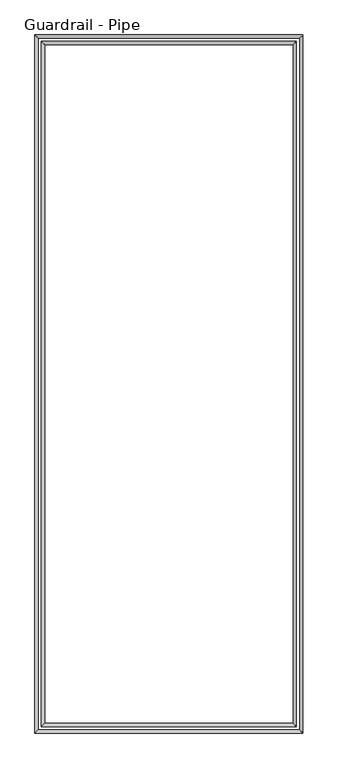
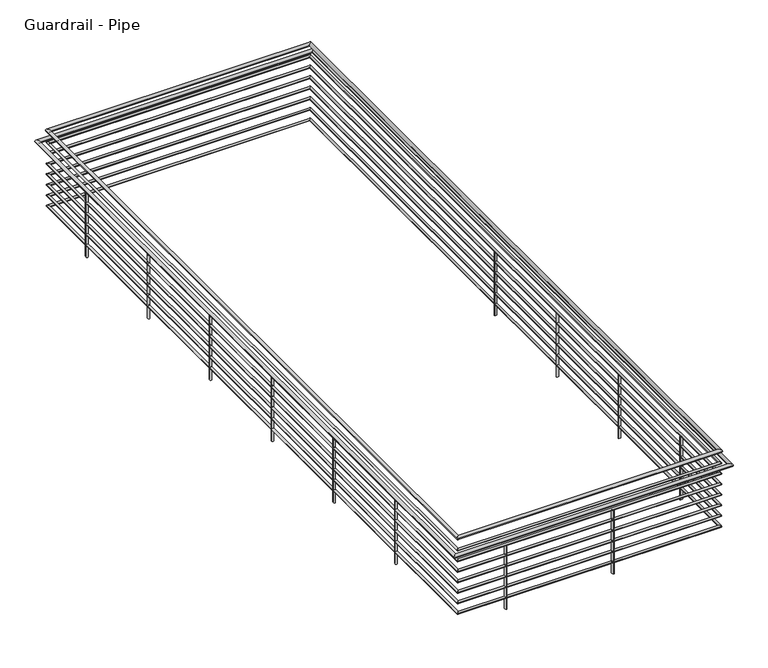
"""IFC4 building model written with IfcOpenShell, lengths in millimetres: railing geometry, Guardrail - Pipe."""

from ifc_helpers import new_model, si_unit, frame, origin, place, context, project, spatial, ellipse_curve, source, transform, mapped, element, save
from ifc_brep_helpers import plane_surface, cylinder_surface, advanced_brep


def guardrail_pipe_d067cc8d(model_context):
    return source(origin(), model_context, "Body", "AdvancedBrep", [
        advanced_brep(
        [(10994.5813551, 40890.75, 8362.95), (10956.4813551, 40928.85, 8362.95), (13977.3813552, 40928.85, 8362.95), (13939.2813552, 40890.75, 8362.95), (13977.3813552, 32813.55, 8362.95), (13939.2813552, 32851.65, 8362.95), (10956.4813551, 32813.55, 8362.95), (10994.5813551, 32851.65, 8362.95)],
        [
            (0, 1, ellipse_curve(frame((10975.5313551, 40909.8, 8362.95), z_axis=(0.7071067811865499, 0.7071067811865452, 0.0), x_axis=(-0.707106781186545, 0.70710678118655, 0.0)), 26.9407684, 19.05)),
            (1, 2),
            (2, 3, ellipse_curve(frame((13958.3313552, 40909.8, 8362.95), z_axis=(-0.7071067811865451, 0.7071067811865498, 0.0), x_axis=(-0.70710678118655, -0.707106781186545, 0.0)), 26.9407684, 19.05)),
            (3, 0),
            (1, 0, ellipse_curve(frame((10975.5313551, 40909.8, 8362.95), z_axis=(0.7071067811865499, 0.7071067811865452, 0.0), x_axis=(-0.707106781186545, 0.70710678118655, 0.0)), 26.9407684, 19.05)),
            (3, 2, ellipse_curve(frame((13958.3313552, 40909.8, 8362.95), z_axis=(-0.7071067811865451, 0.7071067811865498, 0.0), x_axis=(-0.70710678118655, -0.707106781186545, 0.0)), 26.9407684, 19.05)),
            (2, 4),
            (4, 5, ellipse_curve(frame((13958.3313552, 32832.6, 8362.95), z_axis=(0.7071067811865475, 0.7071067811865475, 0.0), x_axis=(-0.7071067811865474, 0.7071067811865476, 0.0)), 26.9407684, 19.05)),
            (5, 3),
            (5, 4, ellipse_curve(frame((13958.3313552, 32832.6, 8362.95), z_axis=(0.7071067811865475, 0.7071067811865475, 0.0), x_axis=(-0.7071067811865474, 0.7071067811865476, 0.0)), 26.9407684, 19.05)),
            (4, 6),
            (6, 7, ellipse_curve(frame((10975.5313551, 32832.6, 8362.95), z_axis=(0.7071067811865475, -0.7071067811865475, 0.0), x_axis=(0.7071067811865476, 0.7071067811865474, 0.0)), 26.9407684, 19.05)),
            (7, 5),
            (7, 6, ellipse_curve(frame((10975.5313551, 32832.6, 8362.95), z_axis=(0.7071067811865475, -0.7071067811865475, 0.0), x_axis=(0.7071067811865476, 0.7071067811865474, 0.0)), 26.9407684, 19.05)),
            (6, 1),
            (0, 7),
        ],
        [
            cylinder_surface(frame((10975.5313551, 40909.8, 8362.95), z_axis=(-1.0, 0.0, 0.0), x_axis=(0.0, -1.0, 0.0)), 19.05),
            cylinder_surface(frame((13958.3313552, 40909.8, 8362.95), z_axis=(0.0, 1.0, 0.0), x_axis=(-1.0, 0.0, 0.0)), 19.05),
            cylinder_surface(frame((13958.3313552, 32832.6, 8362.95), z_axis=(1.0, 0.0, 0.0), x_axis=(0.0, 1.0, 0.0)), 19.05),
            cylinder_surface(frame((10975.5313551, 32832.6, 8362.95), z_axis=(0.0, -1.0, 0.0), x_axis=(1.0, 0.0, 0.0)), 19.05),
        ],
        [
            (0, [[1, 2, 3, 4]]),
            (0, [[5, -4, 6, -2]]),
            (1, [[-3, 7, 8, 9]]),
            (1, [[-6, -9, 10, -7]]),
            (2, [[-8, 11, 12, 13]]),
            (2, [[-10, -13, 14, -11]]),
            (3, [[-12, 15, -1, 16]]),
            (3, [[-14, -16, -5, -15]]),
        ],
    ),
        advanced_brep(
        [(10988.2313551, 40897.1, 8216.9), (10962.8313551, 40922.5, 8216.9), (13971.0313552, 40922.5, 8216.9), (13945.6313552, 40897.1, 8216.9), (13971.0313552, 32819.9, 8216.9), (13945.6313552, 32845.3, 8216.9), (10962.8313551, 32819.9, 8216.9), (10988.2313551, 32845.3, 8216.9)],
        [
            (0, 1, ellipse_curve(frame((10975.5313551, 40909.8, 8216.9), z_axis=(0.7071067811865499, 0.7071067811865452, 0.0), x_axis=(-0.707106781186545, 0.70710678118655, 0.0)), 17.9605122, 12.7)),
            (1, 2),
            (2, 3, ellipse_curve(frame((13958.3313552, 40909.8, 8216.9), z_axis=(-0.7071067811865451, 0.7071067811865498, 0.0), x_axis=(-0.70710678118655, -0.707106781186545, 0.0)), 17.9605122, 12.7)),
            (3, 0),
            (1, 0, ellipse_curve(frame((10975.5313551, 40909.8, 8216.9), z_axis=(0.7071067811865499, 0.7071067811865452, 0.0), x_axis=(-0.707106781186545, 0.70710678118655, 0.0)), 17.9605122, 12.7)),
            (3, 2, ellipse_curve(frame((13958.3313552, 40909.8, 8216.9), z_axis=(-0.7071067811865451, 0.7071067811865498, 0.0), x_axis=(-0.70710678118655, -0.707106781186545, 0.0)), 17.9605122, 12.7)),
            (2, 4),
            (4, 5, ellipse_curve(frame((13958.3313552, 32832.6, 8216.9), z_axis=(0.7071067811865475, 0.7071067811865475, 0.0), x_axis=(-0.7071067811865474, 0.7071067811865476, 0.0)), 17.9605122, 12.7)),
            (5, 3),
            (5, 4, ellipse_curve(frame((13958.3313552, 32832.6, 8216.9), z_axis=(0.7071067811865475, 0.7071067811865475, 0.0), x_axis=(-0.7071067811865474, 0.7071067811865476, 0.0)), 17.9605122, 12.7)),
            (4, 6),
            (6, 7, ellipse_curve(frame((10975.5313551, 32832.6, 8216.9), z_axis=(0.7071067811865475, -0.7071067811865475, 0.0), x_axis=(0.7071067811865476, 0.7071067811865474, 0.0)), 17.9605122, 12.7)),
            (7, 5),
            (7, 6, ellipse_curve(frame((10975.5313551, 32832.6, 8216.9), z_axis=(0.7071067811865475, -0.7071067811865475, 0.0), x_axis=(0.7071067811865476, 0.7071067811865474, 0.0)), 17.9605122, 12.7)),
            (6, 1),
            (0, 7),
        ],
        [
            cylinder_surface(frame((10975.5313551, 40909.8, 8216.9), z_axis=(-1.0, 0.0, 0.0), x_axis=(0.0, -1.0, 0.0)), 12.7),
            cylinder_surface(frame((13958.3313552, 40909.8, 8216.9), z_axis=(0.0, 1.0, 0.0), x_axis=(-1.0, 0.0, 0.0)), 12.7),
            cylinder_surface(frame((13958.3313552, 32832.6, 8216.9), z_axis=(1.0, 0.0, 0.0), x_axis=(0.0, 1.0, 0.0)), 12.7),
            cylinder_surface(frame((10975.5313551, 32832.6, 8216.9), z_axis=(0.0, -1.0, 0.0), x_axis=(1.0, 0.0, 0.0)), 12.7),
        ],
        [
            (0, [[1, 2, 3, 4]]),
            (0, [[5, -4, 6, -2]]),
            (1, [[-3, 7, 8, 9]]),
            (1, [[-6, -9, 10, -7]]),
            (2, [[-8, 11, 12, 13]]),
            (2, [[-10, -13, 14, -11]]),
            (3, [[-12, 15, -1, 16]]),
            (3, [[-14, -16, -5, -15]]),
        ],
    ),
        advanced_brep(
        [(10918.3813551, 40966.95, 8210.55), (10880.2813551, 41005.05, 8210.55), (14053.5813552, 41005.05, 8210.55), (14015.4813552, 40966.95, 8210.55), (14053.5813552, 32737.35, 8210.55), (14015.4813552, 32775.45, 8210.55), (10880.2813551, 32737.35, 8210.55), (10918.3813551, 32775.45, 8210.55)],
        [
            (0, 1, ellipse_curve(frame((10899.3313551, 40986.0, 8210.55), z_axis=(0.7071067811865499, 0.7071067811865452, 0.0), x_axis=(-0.707106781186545, 0.70710678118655, 0.0)), 26.9407684, 19.05)),
            (1, 2),
            (2, 3, ellipse_curve(frame((14034.5313552, 40986.0, 8210.55), z_axis=(-0.7071067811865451, 0.7071067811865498, 0.0), x_axis=(-0.70710678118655, -0.707106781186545, 0.0)), 26.9407684, 19.05)),
            (3, 0),
            (1, 0, ellipse_curve(frame((10899.3313551, 40986.0, 8210.55), z_axis=(0.7071067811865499, 0.7071067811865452, 0.0), x_axis=(-0.707106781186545, 0.70710678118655, 0.0)), 26.9407684, 19.05)),
            (3, 2, ellipse_curve(frame((14034.5313552, 40986.0, 8210.55), z_axis=(-0.7071067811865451, 0.7071067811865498, 0.0), x_axis=(-0.70710678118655, -0.707106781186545, 0.0)), 26.9407684, 19.05)),
            (2, 4),
            (4, 5, ellipse_curve(frame((14034.5313552, 32756.4, 8210.55), z_axis=(0.7071067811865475, 0.7071067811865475, 0.0), x_axis=(-0.7071067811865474, 0.7071067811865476, 0.0)), 26.9407684, 19.05)),
            (5, 3),
            (5, 4, ellipse_curve(frame((14034.5313552, 32756.4, 8210.55), z_axis=(0.7071067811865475, 0.7071067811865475, 0.0), x_axis=(-0.7071067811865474, 0.7071067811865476, 0.0)), 26.9407684, 19.05)),
            (4, 6),
            (6, 7, ellipse_curve(frame((10899.3313551, 32756.4, 8210.55), z_axis=(0.7071067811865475, -0.7071067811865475, 0.0), x_axis=(0.7071067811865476, 0.7071067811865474, 0.0)), 26.9407684, 19.05)),
            (7, 5),
            (7, 6, ellipse_curve(frame((10899.3313551, 32756.4, 8210.55), z_axis=(0.7071067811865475, -0.7071067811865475, 0.0), x_axis=(0.7071067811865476, 0.7071067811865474, 0.0)), 26.9407684, 19.05)),
            (6, 1),
            (0, 7),
        ],
        [
            cylinder_surface(frame((10899.3313551, 40986.0, 8210.55), z_axis=(-1.0, 0.0, 0.0), x_axis=(0.0, -1.0, 0.0)), 19.05),
            cylinder_surface(frame((14034.5313552, 40986.0, 8210.55), z_axis=(0.0, 1.0, 0.0), x_axis=(-1.0, 0.0, 0.0)), 19.05),
            cylinder_surface(frame((14034.5313552, 32756.4, 8210.55), z_axis=(1.0, 0.0, 0.0), x_axis=(0.0, 1.0, 0.0)), 19.05),
            cylinder_surface(frame((10899.3313551, 32756.4, 8210.55), z_axis=(0.0, -1.0, 0.0), x_axis=(1.0, 0.0, 0.0)), 19.05),
        ],
        [
            (0, [[1, 2, 3, 4]]),
            (0, [[5, -4, 6, -2]]),
            (1, [[-3, 7, 8, 9]]),
            (1, [[-6, -9, 10, -7]]),
            (2, [[-8, 11, 12, 13]]),
            (2, [[-10, -13, 14, -11]]),
            (3, [[-12, 15, -1, 16]]),
            (3, [[-14, -16, -5, -15]]),
        ],
    ),
        advanced_brep(
        [(10988.2313551, 40897.1, 8089.9), (10962.8313551, 40922.5, 8089.9), (13971.0313552, 40922.5, 8089.9), (13945.6313552, 40897.1, 8089.9), (13971.0313552, 32819.9, 8089.9), (13945.6313552, 32845.3, 8089.9), (10962.8313551, 32819.9, 8089.9), (10988.2313551, 32845.3, 8089.9)],
        [
            (0, 1, ellipse_curve(frame((10975.5313551, 40909.8, 8089.9), z_axis=(0.7071067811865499, 0.7071067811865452, 0.0), x_axis=(-0.707106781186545, 0.70710678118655, 0.0)), 17.9605122, 12.7)),
            (1, 2),
            (2, 3, ellipse_curve(frame((13958.3313552, 40909.8, 8089.9), z_axis=(-0.7071067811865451, 0.7071067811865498, 0.0), x_axis=(-0.70710678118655, -0.707106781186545, 0.0)), 17.9605122, 12.7)),
            (3, 0),
            (1, 0, ellipse_curve(frame((10975.5313551, 40909.8, 8089.9), z_axis=(0.7071067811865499, 0.7071067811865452, 0.0), x_axis=(-0.707106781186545, 0.70710678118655, 0.0)), 17.9605122, 12.7)),
            (3, 2, ellipse_curve(frame((13958.3313552, 40909.8, 8089.9), z_axis=(-0.7071067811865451, 0.7071067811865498, 0.0), x_axis=(-0.70710678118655, -0.707106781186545, 0.0)), 17.9605122, 12.7)),
            (2, 4),
            (4, 5, ellipse_curve(frame((13958.3313552, 32832.6, 8089.9), z_axis=(0.7071067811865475, 0.7071067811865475, 0.0), x_axis=(-0.7071067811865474, 0.7071067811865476, 0.0)), 17.9605122, 12.7)),
            (5, 3),
            (5, 4, ellipse_curve(frame((13958.3313552, 32832.6, 8089.9), z_axis=(0.7071067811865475, 0.7071067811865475, 0.0), x_axis=(-0.7071067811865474, 0.7071067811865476, 0.0)), 17.9605122, 12.7)),
            (4, 6),
            (6, 7, ellipse_curve(frame((10975.5313551, 32832.6, 8089.9), z_axis=(0.7071067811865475, -0.7071067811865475, 0.0), x_axis=(0.7071067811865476, 0.7071067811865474, 0.0)), 17.9605122, 12.7)),
            (7, 5),
            (7, 6, ellipse_curve(frame((10975.5313551, 32832.6, 8089.9), z_axis=(0.7071067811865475, -0.7071067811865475, 0.0), x_axis=(0.7071067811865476, 0.7071067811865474, 0.0)), 17.9605122, 12.7)),
            (6, 1),
            (0, 7),
        ],
        [
            cylinder_surface(frame((10975.5313551, 40909.8, 8089.9), z_axis=(-1.0, 0.0, 0.0), x_axis=(0.0, -1.0, 0.0)), 12.7),
            cylinder_surface(frame((13958.3313552, 40909.8, 8089.9), z_axis=(0.0, 1.0, 0.0), x_axis=(-1.0, 0.0, 0.0)), 12.7),
            cylinder_surface(frame((13958.3313552, 32832.6, 8089.9), z_axis=(1.0, 0.0, 0.0), x_axis=(0.0, 1.0, 0.0)), 12.7),
            cylinder_surface(frame((10975.5313551, 32832.6, 8089.9), z_axis=(0.0, -1.0, 0.0), x_axis=(1.0, 0.0, 0.0)), 12.7),
        ],
        [
            (0, [[1, 2, 3, 4]]),
            (0, [[5, -4, 6, -2]]),
            (1, [[-3, 7, 8, 9]]),
            (1, [[-6, -9, 10, -7]]),
            (2, [[-8, 11, 12, 13]]),
            (2, [[-10, -13, 14, -11]]),
            (3, [[-12, 15, -1, 16]]),
            (3, [[-14, -16, -5, -15]]),
        ],
    ),
        advanced_brep(
        [(10988.2313551, 40897.1, 7962.9), (10962.8313551, 40922.5, 7962.9), (13971.0313552, 40922.5, 7962.9), (13945.6313552, 40897.1, 7962.9), (13971.0313552, 32819.9, 7962.9), (13945.6313552, 32845.3, 7962.9), (10962.8313551, 32819.9, 7962.9), (10988.2313551, 32845.3, 7962.9)],
        [
            (0, 1, ellipse_curve(frame((10975.5313551, 40909.8, 7962.9), z_axis=(0.7071067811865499, 0.7071067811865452, 0.0), x_axis=(-0.707106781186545, 0.70710678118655, 0.0)), 17.9605122, 12.7)),
            (1, 2),
            (2, 3, ellipse_curve(frame((13958.3313552, 40909.8, 7962.9), z_axis=(-0.7071067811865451, 0.7071067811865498, 0.0), x_axis=(-0.70710678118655, -0.707106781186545, 0.0)), 17.9605122, 12.7)),
            (3, 0),
            (1, 0, ellipse_curve(frame((10975.5313551, 40909.8, 7962.9), z_axis=(0.7071067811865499, 0.7071067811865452, 0.0), x_axis=(-0.707106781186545, 0.70710678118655, 0.0)), 17.9605122, 12.7)),
            (3, 2, ellipse_curve(frame((13958.3313552, 40909.8, 7962.9), z_axis=(-0.7071067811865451, 0.7071067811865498, 0.0), x_axis=(-0.70710678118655, -0.707106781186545, 0.0)), 17.9605122, 12.7)),
            (2, 4),
            (4, 5, ellipse_curve(frame((13958.3313552, 32832.6, 7962.9), z_axis=(0.7071067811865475, 0.7071067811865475, 0.0), x_axis=(-0.7071067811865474, 0.7071067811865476, 0.0)), 17.9605122, 12.7)),
            (5, 3),
            (5, 4, ellipse_curve(frame((13958.3313552, 32832.6, 7962.9), z_axis=(0.7071067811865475, 0.7071067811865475, 0.0), x_axis=(-0.7071067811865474, 0.7071067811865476, 0.0)), 17.9605122, 12.7)),
            (4, 6),
            (6, 7, ellipse_curve(frame((10975.5313551, 32832.6, 7962.9), z_axis=(0.7071067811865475, -0.7071067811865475, 0.0), x_axis=(0.7071067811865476, 0.7071067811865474, 0.0)), 17.9605122, 12.7)),
            (7, 5),
            (7, 6, ellipse_curve(frame((10975.5313551, 32832.6, 7962.9), z_axis=(0.7071067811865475, -0.7071067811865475, 0.0), x_axis=(0.7071067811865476, 0.7071067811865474, 0.0)), 17.9605122, 12.7)),
            (6, 1),
            (0, 7),
        ],
        [
            cylinder_surface(frame((10975.5313551, 40909.8, 7962.9), z_axis=(-1.0, 0.0, 0.0), x_axis=(0.0, -1.0, 0.0)), 12.7),
            cylinder_surface(frame((13958.3313552, 40909.8, 7962.9), z_axis=(0.0, 1.0, 0.0), x_axis=(-1.0, 0.0, 0.0)), 12.7),
            cylinder_surface(frame((13958.3313552, 32832.6, 7962.9), z_axis=(1.0, 0.0, 0.0), x_axis=(0.0, 1.0, 0.0)), 12.7),
            cylinder_surface(frame((10975.5313551, 32832.6, 7962.9), z_axis=(0.0, -1.0, 0.0), x_axis=(1.0, 0.0, 0.0)), 12.7),
        ],
        [
            (0, [[1, 2, 3, 4]]),
            (0, [[5, -4, 6, -2]]),
            (1, [[-3, 7, 8, 9]]),
            (1, [[-6, -9, 10, -7]]),
            (2, [[-8, 11, 12, 13]]),
            (2, [[-10, -13, 14, -11]]),
            (3, [[-12, 15, -1, 16]]),
            (3, [[-14, -16, -5, -15]]),
        ],
    ),
        advanced_brep(
        [(10988.2313551, 40897.1, 7835.9), (10962.8313551, 40922.5, 7835.9), (13971.0313552, 40922.5, 7835.9), (13945.6313552, 40897.1, 7835.9), (13971.0313552, 32819.9, 7835.9), (13945.6313552, 32845.3, 7835.9), (10962.8313551, 32819.9, 7835.9), (10988.2313551, 32845.3, 7835.9)],
        [
            (0, 1, ellipse_curve(frame((10975.5313551, 40909.8, 7835.9), z_axis=(0.7071067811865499, 0.7071067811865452, 0.0), x_axis=(-0.707106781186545, 0.70710678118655, 0.0)), 17.9605122, 12.7)),
            (1, 2),
            (2, 3, ellipse_curve(frame((13958.3313552, 40909.8, 7835.9), z_axis=(-0.7071067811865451, 0.7071067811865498, 0.0), x_axis=(-0.70710678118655, -0.707106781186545, 0.0)), 17.9605122, 12.7)),
            (3, 0),
            (1, 0, ellipse_curve(frame((10975.5313551, 40909.8, 7835.9), z_axis=(0.7071067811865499, 0.7071067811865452, 0.0), x_axis=(-0.707106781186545, 0.70710678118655, 0.0)), 17.9605122, 12.7)),
            (3, 2, ellipse_curve(frame((13958.3313552, 40909.8, 7835.9), z_axis=(-0.7071067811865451, 0.7071067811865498, 0.0), x_axis=(-0.70710678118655, -0.707106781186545, 0.0)), 17.9605122, 12.7)),
            (2, 4),
            (4, 5, ellipse_curve(frame((13958.3313552, 32832.6, 7835.9), z_axis=(0.7071067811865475, 0.7071067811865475, 0.0), x_axis=(-0.7071067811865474, 0.7071067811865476, 0.0)), 17.9605122, 12.7)),
            (5, 3),
            (5, 4, ellipse_curve(frame((13958.3313552, 32832.6, 7835.9), z_axis=(0.7071067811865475, 0.7071067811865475, 0.0), x_axis=(-0.7071067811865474, 0.7071067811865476, 0.0)), 17.9605122, 12.7)),
            (4, 6),
            (6, 7, ellipse_curve(frame((10975.5313551, 32832.6, 7835.9), z_axis=(0.7071067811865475, -0.7071067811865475, 0.0), x_axis=(0.7071067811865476, 0.7071067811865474, 0.0)), 17.9605122, 12.7)),
            (7, 5),
            (7, 6, ellipse_curve(frame((10975.5313551, 32832.6, 7835.9), z_axis=(0.7071067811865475, -0.7071067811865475, 0.0), x_axis=(0.7071067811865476, 0.7071067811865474, 0.0)), 17.9605122, 12.7)),
            (6, 1),
            (0, 7),
        ],
        [
            cylinder_surface(frame((10975.5313551, 40909.8, 7835.9), z_axis=(-1.0, 0.0, 0.0), x_axis=(0.0, -1.0, 0.0)), 12.7),
            cylinder_surface(frame((13958.3313552, 40909.8, 7835.9), z_axis=(0.0, 1.0, 0.0), x_axis=(-1.0, 0.0, 0.0)), 12.7),
            cylinder_surface(frame((13958.3313552, 32832.6, 7835.9), z_axis=(1.0, 0.0, 0.0), x_axis=(0.0, 1.0, 0.0)), 12.7),
            cylinder_surface(frame((10975.5313551, 32832.6, 7835.9), z_axis=(0.0, -1.0, 0.0), x_axis=(1.0, 0.0, 0.0)), 12.7),
        ],
        [
            (0, [[1, 2, 3, 4]]),
            (0, [[5, -4, 6, -2]]),
            (1, [[-3, 7, 8, 9]]),
            (1, [[-6, -9, 10, -7]]),
            (2, [[-8, 11, 12, 13]]),
            (2, [[-10, -13, 14, -11]]),
            (3, [[-12, 15, -1, 16]]),
            (3, [[-14, -16, -5, -15]]),
        ],
    ),
        advanced_brep(
        [(10988.2313551, 40897.1, 7708.9), (10962.8313551, 40922.5, 7708.9), (13971.0313552, 40922.5, 7708.9), (13945.6313552, 40897.1, 7708.9), (13971.0313552, 32819.9, 7708.9), (13945.6313552, 32845.3, 7708.9), (10962.8313551, 32819.9, 7708.9), (10988.2313551, 32845.3, 7708.9)],
        [
            (0, 1, ellipse_curve(frame((10975.5313551, 40909.8, 7708.9), z_axis=(0.7071067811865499, 0.7071067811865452, 0.0), x_axis=(-0.707106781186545, 0.70710678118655, 0.0)), 17.9605122, 12.7)),
            (1, 2),
            (2, 3, ellipse_curve(frame((13958.3313552, 40909.8, 7708.9), z_axis=(-0.7071067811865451, 0.7071067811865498, 0.0), x_axis=(-0.70710678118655, -0.707106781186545, 0.0)), 17.9605122, 12.7)),
            (3, 0),
            (1, 0, ellipse_curve(frame((10975.5313551, 40909.8, 7708.9), z_axis=(0.7071067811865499, 0.7071067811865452, 0.0), x_axis=(-0.707106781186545, 0.70710678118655, 0.0)), 17.9605122, 12.7)),
            (3, 2, ellipse_curve(frame((13958.3313552, 40909.8, 7708.9), z_axis=(-0.7071067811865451, 0.7071067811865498, 0.0), x_axis=(-0.70710678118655, -0.707106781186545, 0.0)), 17.9605122, 12.7)),
            (2, 4),
            (4, 5, ellipse_curve(frame((13958.3313552, 32832.6, 7708.9), z_axis=(0.7071067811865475, 0.7071067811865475, 0.0), x_axis=(-0.7071067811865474, 0.7071067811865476, 0.0)), 17.9605122, 12.7)),
            (5, 3),
            (5, 4, ellipse_curve(frame((13958.3313552, 32832.6, 7708.9), z_axis=(0.7071067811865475, 0.7071067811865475, 0.0), x_axis=(-0.7071067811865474, 0.7071067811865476, 0.0)), 17.9605122, 12.7)),
            (4, 6),
            (6, 7, ellipse_curve(frame((10975.5313551, 32832.6, 7708.9), z_axis=(0.7071067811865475, -0.7071067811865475, 0.0), x_axis=(0.7071067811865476, 0.7071067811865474, 0.0)), 17.9605122, 12.7)),
            (7, 5),
            (7, 6, ellipse_curve(frame((10975.5313551, 32832.6, 7708.9), z_axis=(0.7071067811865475, -0.7071067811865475, 0.0), x_axis=(0.7071067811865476, 0.7071067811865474, 0.0)), 17.9605122, 12.7)),
            (6, 1),
            (0, 7),
        ],
        [
            cylinder_surface(frame((10975.5313551, 40909.8, 7708.9), z_axis=(-1.0, 0.0, 0.0), x_axis=(0.0, -1.0, 0.0)), 12.7),
            cylinder_surface(frame((13958.3313552, 40909.8, 7708.9), z_axis=(0.0, 1.0, 0.0), x_axis=(-1.0, 0.0, 0.0)), 12.7),
            cylinder_surface(frame((13958.3313552, 32832.6, 7708.9), z_axis=(1.0, 0.0, 0.0), x_axis=(0.0, 1.0, 0.0)), 12.7),
            cylinder_surface(frame((10975.5313551, 32832.6, 7708.9), z_axis=(0.0, -1.0, 0.0), x_axis=(1.0, 0.0, 0.0)), 12.7),
        ],
        [
            (0, [[1, 2, 3, 4]]),
            (0, [[5, -4, 6, -2]]),
            (1, [[-3, 7, 8, 9]]),
            (1, [[-6, -9, 10, -7]]),
            (2, [[-8, 11, 12, 13]]),
            (2, [[-10, -13, 14, -11]]),
            (3, [[-12, 15, -1, 16]]),
            (3, [[-14, -16, -5, -15]]),
        ],
    ),
        advanced_brep(
        [(10988.2313551, 40897.1, 7581.9), (10962.8313551, 40922.5, 7581.9), (13971.0313552, 40922.5, 7581.9), (13945.6313552, 40897.1, 7581.9), (13971.0313552, 32819.9, 7581.9), (13945.6313552, 32845.3, 7581.9), (10962.8313551, 32819.9, 7581.9), (10988.2313551, 32845.3, 7581.9)],
        [
            (0, 1, ellipse_curve(frame((10975.5313551, 40909.8, 7581.9), z_axis=(0.7071067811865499, 0.7071067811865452, 0.0), x_axis=(-0.707106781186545, 0.70710678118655, 0.0)), 17.9605122, 12.7)),
            (1, 2),
            (2, 3, ellipse_curve(frame((13958.3313552, 40909.8, 7581.9), z_axis=(-0.7071067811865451, 0.7071067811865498, 0.0), x_axis=(-0.70710678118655, -0.707106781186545, 0.0)), 17.9605122, 12.7)),
            (3, 0),
            (1, 0, ellipse_curve(frame((10975.5313551, 40909.8, 7581.9), z_axis=(0.7071067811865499, 0.7071067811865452, 0.0), x_axis=(-0.707106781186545, 0.70710678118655, 0.0)), 17.9605122, 12.7)),
            (3, 2, ellipse_curve(frame((13958.3313552, 40909.8, 7581.9), z_axis=(-0.7071067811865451, 0.7071067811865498, 0.0), x_axis=(-0.70710678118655, -0.707106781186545, 0.0)), 17.9605122, 12.7)),
            (2, 4),
            (4, 5, ellipse_curve(frame((13958.3313552, 32832.6, 7581.9), z_axis=(0.7071067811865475, 0.7071067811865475, 0.0), x_axis=(-0.7071067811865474, 0.7071067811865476, 0.0)), 17.9605122, 12.7)),
            (5, 3),
            (5, 4, ellipse_curve(frame((13958.3313552, 32832.6, 7581.9), z_axis=(0.7071067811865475, 0.7071067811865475, 0.0), x_axis=(-0.7071067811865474, 0.7071067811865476, 0.0)), 17.9605122, 12.7)),
            (4, 6),
            (6, 7, ellipse_curve(frame((10975.5313551, 32832.6, 7581.9), z_axis=(0.7071067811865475, -0.7071067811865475, 0.0), x_axis=(0.7071067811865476, 0.7071067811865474, 0.0)), 17.9605122, 12.7)),
            (7, 5),
            (7, 6, ellipse_curve(frame((10975.5313551, 32832.6, 7581.9), z_axis=(0.7071067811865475, -0.7071067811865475, 0.0), x_axis=(0.7071067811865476, 0.7071067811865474, 0.0)), 17.9605122, 12.7)),
            (6, 1),
            (0, 7),
        ],
        [
            cylinder_surface(frame((10975.5313551, 40909.8, 7581.9), z_axis=(-1.0, 0.0, 0.0), x_axis=(0.0, -1.0, 0.0)), 12.7),
            cylinder_surface(frame((13958.3313552, 40909.8, 7581.9), z_axis=(0.0, 1.0, 0.0), x_axis=(-1.0, 0.0, 0.0)), 12.7),
            cylinder_surface(frame((13958.3313552, 32832.6, 7581.9), z_axis=(1.0, 0.0, 0.0), x_axis=(0.0, 1.0, 0.0)), 12.7),
            cylinder_surface(frame((10975.5313551, 32832.6, 7581.9), z_axis=(0.0, -1.0, 0.0), x_axis=(1.0, 0.0, 0.0)), 12.7),
        ],
        [
            (0, [[1, 2, 3, 4]]),
            (0, [[5, -4, 6, -2]]),
            (1, [[-3, 7, 8, 9]]),
            (1, [[-6, -9, 10, -7]]),
            (2, [[-8, 11, 12, 13]]),
            (2, [[-10, -13, 14, -11]]),
            (3, [[-12, 15, -1, 16]]),
            (3, [[-14, -16, -5, -15]]),
        ],
    ),
        advanced_brep(
        [(10988.2313551, 40897.1, 7454.9), (10962.8313551, 40922.5, 7454.9), (13971.0313552, 40922.5, 7454.9), (13945.6313552, 40897.1, 7454.9), (13971.0313552, 32819.9, 7454.9), (13945.6313552, 32845.3, 7454.9), (10962.8313551, 32819.9, 7454.9), (10988.2313551, 32845.3, 7454.9)],
        [
            (0, 1, ellipse_curve(frame((10975.5313551, 40909.8, 7454.9), z_axis=(0.7071067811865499, 0.7071067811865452, 0.0), x_axis=(-0.707106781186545, 0.70710678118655, 0.0)), 17.9605122, 12.7)),
            (1, 2),
            (2, 3, ellipse_curve(frame((13958.3313552, 40909.8, 7454.9), z_axis=(-0.7071067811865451, 0.7071067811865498, 0.0), x_axis=(-0.70710678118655, -0.707106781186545, 0.0)), 17.9605122, 12.7)),
            (3, 0),
            (1, 0, ellipse_curve(frame((10975.5313551, 40909.8, 7454.9), z_axis=(0.7071067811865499, 0.7071067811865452, 0.0), x_axis=(-0.707106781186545, 0.70710678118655, 0.0)), 17.9605122, 12.7)),
            (3, 2, ellipse_curve(frame((13958.3313552, 40909.8, 7454.9), z_axis=(-0.7071067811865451, 0.7071067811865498, 0.0), x_axis=(-0.70710678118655, -0.707106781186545, 0.0)), 17.9605122, 12.7)),
            (2, 4),
            (4, 5, ellipse_curve(frame((13958.3313552, 32832.6, 7454.9), z_axis=(0.7071067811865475, 0.7071067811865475, 0.0), x_axis=(-0.7071067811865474, 0.7071067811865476, 0.0)), 17.9605122, 12.7)),
            (5, 3),
            (5, 4, ellipse_curve(frame((13958.3313552, 32832.6, 7454.9), z_axis=(0.7071067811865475, 0.7071067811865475, 0.0), x_axis=(-0.7071067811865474, 0.7071067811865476, 0.0)), 17.9605122, 12.7)),
            (4, 6),
            (6, 7, ellipse_curve(frame((10975.5313551, 32832.6, 7454.9), z_axis=(0.7071067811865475, -0.7071067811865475, 0.0), x_axis=(0.7071067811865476, 0.7071067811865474, 0.0)), 17.9605122, 12.7)),
            (7, 5),
            (7, 6, ellipse_curve(frame((10975.5313551, 32832.6, 7454.9), z_axis=(0.7071067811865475, -0.7071067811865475, 0.0), x_axis=(0.7071067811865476, 0.7071067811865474, 0.0)), 17.9605122, 12.7)),
            (6, 1),
            (0, 7),
        ],
        [
            cylinder_surface(frame((10975.5313551, 40909.8, 7454.9), z_axis=(-1.0, 0.0, 0.0), x_axis=(0.0, -1.0, 0.0)), 12.7),
            cylinder_surface(frame((13958.3313552, 40909.8, 7454.9), z_axis=(0.0, 1.0, 0.0), x_axis=(-1.0, 0.0, 0.0)), 12.7),
            cylinder_surface(frame((13958.3313552, 32832.6, 7454.9), z_axis=(1.0, 0.0, 0.0), x_axis=(0.0, 1.0, 0.0)), 12.7),
            cylinder_surface(frame((10975.5313551, 32832.6, 7454.9), z_axis=(0.0, -1.0, 0.0), x_axis=(1.0, 0.0, 0.0)), 12.7),
        ],
        [
            (0, [[1, 2, 3, 4]]),
            (0, [[5, -4, 6, -2]]),
            (1, [[-3, 7, 8, 9]]),
            (1, [[-6, -9, 10, -7]]),
            (2, [[-8, 11, 12, 13]]),
            (2, [[-10, -13, 14, -11]]),
            (3, [[-12, 15, -1, 16]]),
            (3, [[-14, -16, -5, -15]]),
        ],
    ),
        advanced_brep(
        [(10988.2313551, 40147.8, 8077.2), (10988.2313551, 40147.8, 7315.2), (10962.8313551, 40147.8, 7315.2), (10962.8313551, 40147.8, 8077.2)],
        [
            (0, 1),
            (1, 2, ellipse_curve(frame((10975.5313551, 40147.8, 7315.2), z_axis=(0.0, -0.536857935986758, 0.8436726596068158), x_axis=(0.0, 0.8436726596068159, 0.536857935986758)), 15.0532317, 12.7)),
            (2, 3),
            (3, 0, ellipse_curve(frame((10975.5313551, 40147.8, 8077.2), z_axis=(0.0, 0.5368579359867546, -0.8436726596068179), x_axis=(0.0, 0.843672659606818, 0.5368579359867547)), 15.0532317, 12.7)),
            (0, 3, ellipse_curve(frame((10975.5313551, 40147.8, 8077.2), z_axis=(0.0, 0.5368579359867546, -0.8436726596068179), x_axis=(0.0, 0.843672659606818, 0.5368579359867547)), 15.0532317, 12.7)),
            (2, 1, ellipse_curve(frame((10975.5313551, 40147.8, 7315.2), z_axis=(0.0, -0.536857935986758, 0.8436726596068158), x_axis=(0.0, 0.8436726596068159, 0.536857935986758)), 15.0532317, 12.7)),
        ],
        [
            cylinder_surface(frame((10975.5313551, 40147.8, 7086.6), z_axis=(0.0, 0.0, 1.0), x_axis=(-1.0, 0.0, 0.0)), 12.7),
            plane_surface(frame((10950.1313551, 40173.2, 8093.3628938), z_axis=(0.0, -0.5368579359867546, 0.8436726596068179), x_axis=(1.0, 0.0, 0.0))),
            plane_surface(frame((10950.1313551, 40122.4, 7299.0371062), z_axis=(0.0, 0.536857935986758, -0.8436726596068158), x_axis=(1.0, 0.0, 0.0))),
        ],
        [
            (0, [[1, 2, 3, 4]]),
            (0, [[-1, 5, -3, 6]]),
            (1, [[-4, -5]]),
            (2, [[-2, -6]]),
        ],
    ),
        advanced_brep(
        [(10988.2313551, 38928.6, 8077.2), (10988.2313551, 38928.6, 7315.2), (10962.8313551, 38928.6, 7315.2), (10962.8313551, 38928.6, 8077.2)],
        [
            (0, 1),
            (1, 2, ellipse_curve(frame((10975.5313551, 38928.6, 7315.2), z_axis=(0.0, -0.536857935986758, 0.8436726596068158), x_axis=(0.0, 0.8436726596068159, 0.536857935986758)), 15.0532317, 12.7)),
            (2, 3),
            (3, 0, ellipse_curve(frame((10975.5313551, 38928.6, 8077.2), z_axis=(0.0, 0.5368579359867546, -0.8436726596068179), x_axis=(0.0, 0.843672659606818, 0.5368579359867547)), 15.0532317, 12.7)),
            (0, 3, ellipse_curve(frame((10975.5313551, 38928.6, 8077.2), z_axis=(0.0, 0.5368579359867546, -0.8436726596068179), x_axis=(0.0, 0.843672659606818, 0.5368579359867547)), 15.0532317, 12.7)),
            (2, 1, ellipse_curve(frame((10975.5313551, 38928.6, 7315.2), z_axis=(0.0, -0.536857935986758, 0.8436726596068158), x_axis=(0.0, 0.8436726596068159, 0.536857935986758)), 15.0532317, 12.7)),
        ],
        [
            cylinder_surface(frame((10975.5313551, 38928.6, 7086.6), z_axis=(0.0, 0.0, 1.0), x_axis=(-1.0, 0.0, 0.0)), 12.7),
            plane_surface(frame((10950.1313551, 38954.0, 8093.3628938), z_axis=(0.0, -0.5368579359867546, 0.8436726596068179), x_axis=(1.0, 0.0, 0.0))),
            plane_surface(frame((10950.1313551, 38903.2, 7299.0371062), z_axis=(0.0, 0.536857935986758, -0.8436726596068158), x_axis=(1.0, 0.0, 0.0))),
        ],
        [
            (0, [[1, 2, 3, 4]]),
            (0, [[-1, 5, -3, 6]]),
            (1, [[-4, -5]]),
            (2, [[-2, -6]]),
        ],
    ),
        advanced_brep(
        [(10988.2313551, 37709.4, 8077.2), (10988.2313551, 37709.4, 7315.2), (10962.8313551, 37709.4, 7315.2), (10962.8313551, 37709.4, 8077.2)],
        [
            (0, 1),
            (1, 2, ellipse_curve(frame((10975.5313551, 37709.4, 7315.2), z_axis=(0.0, -0.536857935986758, 0.8436726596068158), x_axis=(0.0, 0.8436726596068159, 0.536857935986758)), 15.0532317, 12.7)),
            (2, 3),
            (3, 0, ellipse_curve(frame((10975.5313551, 37709.4, 8077.2), z_axis=(0.0, 0.5368579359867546, -0.8436726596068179), x_axis=(0.0, 0.843672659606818, 0.5368579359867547)), 15.0532317, 12.7)),
            (0, 3, ellipse_curve(frame((10975.5313551, 37709.4, 8077.2), z_axis=(0.0, 0.5368579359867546, -0.8436726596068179), x_axis=(0.0, 0.843672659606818, 0.5368579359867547)), 15.0532317, 12.7)),
            (2, 1, ellipse_curve(frame((10975.5313551, 37709.4, 7315.2), z_axis=(0.0, -0.536857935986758, 0.8436726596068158), x_axis=(0.0, 0.8436726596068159, 0.536857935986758)), 15.0532317, 12.7)),
        ],
        [
            cylinder_surface(frame((10975.5313551, 37709.4, 7086.6), z_axis=(0.0, 0.0, 1.0), x_axis=(-1.0, 0.0, 0.0)), 12.7),
            plane_surface(frame((10950.1313551, 37734.8, 8093.3628938), z_axis=(0.0, -0.5368579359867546, 0.8436726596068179), x_axis=(1.0, 0.0, 0.0))),
            plane_surface(frame((10950.1313551, 37684.0, 7299.0371062), z_axis=(0.0, 0.536857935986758, -0.8436726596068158), x_axis=(1.0, 0.0, 0.0))),
        ],
        [
            (0, [[1, 2, 3, 4]]),
            (0, [[-1, 5, -3, 6]]),
            (1, [[-4, -5]]),
            (2, [[-2, -6]]),
        ],
    ),
        advanced_brep(
        [(10988.2313551, 36490.2, 8077.2), (10988.2313551, 36490.2, 7315.2), (10962.8313551, 36490.2, 7315.2), (10962.8313551, 36490.2, 8077.2)],
        [
            (0, 1),
            (1, 2, ellipse_curve(frame((10975.5313551, 36490.2, 7315.2), z_axis=(0.0, -0.536857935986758, 0.8436726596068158), x_axis=(0.0, 0.8436726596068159, 0.536857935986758)), 15.0532317, 12.7)),
            (2, 3),
            (3, 0, ellipse_curve(frame((10975.5313551, 36490.2, 8077.2), z_axis=(0.0, 0.5368579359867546, -0.8436726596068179), x_axis=(0.0, 0.843672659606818, 0.5368579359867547)), 15.0532317, 12.7)),
            (0, 3, ellipse_curve(frame((10975.5313551, 36490.2, 8077.2), z_axis=(0.0, 0.5368579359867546, -0.8436726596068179), x_axis=(0.0, 0.843672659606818, 0.5368579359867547)), 15.0532317, 12.7)),
            (2, 1, ellipse_curve(frame((10975.5313551, 36490.2, 7315.2), z_axis=(0.0, -0.536857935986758, 0.8436726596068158), x_axis=(0.0, 0.8436726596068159, 0.536857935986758)), 15.0532317, 12.7)),
        ],
        [
            cylinder_surface(frame((10975.5313551, 36490.2, 7086.6), z_axis=(0.0, 0.0, 1.0), x_axis=(-1.0, 0.0, 0.0)), 12.7),
            plane_surface(frame((10950.1313551, 36515.6, 8093.3628938), z_axis=(0.0, -0.5368579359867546, 0.8436726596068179), x_axis=(1.0, 0.0, 0.0))),
            plane_surface(frame((10950.1313551, 36464.8, 7299.0371062), z_axis=(0.0, 0.536857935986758, -0.8436726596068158), x_axis=(1.0, 0.0, 0.0))),
        ],
        [
            (0, [[1, 2, 3, 4]]),
            (0, [[-1, 5, -3, 6]]),
            (1, [[-4, -5]]),
            (2, [[-2, -6]]),
        ],
    ),
        advanced_brep(
        [(10988.2313551, 35271.0, 8077.2), (10988.2313551, 35271.0, 7315.2), (10962.8313551, 35271.0, 7315.2), (10962.8313551, 35271.0, 8077.2)],
        [
            (0, 1),
            (1, 2, ellipse_curve(frame((10975.5313551, 35271.0, 7315.2), z_axis=(0.0, -0.536857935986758, 0.8436726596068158), x_axis=(0.0, 0.8436726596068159, 0.536857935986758)), 15.0532317, 12.7)),
            (2, 3),
            (3, 0, ellipse_curve(frame((10975.5313551, 35271.0, 8077.2), z_axis=(0.0, 0.5368579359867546, -0.8436726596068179), x_axis=(0.0, 0.843672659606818, 0.5368579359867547)), 15.0532317, 12.7)),
            (0, 3, ellipse_curve(frame((10975.5313551, 35271.0, 8077.2), z_axis=(0.0, 0.5368579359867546, -0.8436726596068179), x_axis=(0.0, 0.843672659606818, 0.5368579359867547)), 15.0532317, 12.7)),
            (2, 1, ellipse_curve(frame((10975.5313551, 35271.0, 7315.2), z_axis=(0.0, -0.536857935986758, 0.8436726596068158), x_axis=(0.0, 0.8436726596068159, 0.536857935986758)), 15.0532317, 12.7)),
        ],
        [
            cylinder_surface(frame((10975.5313551, 35271.0, 7086.6), z_axis=(0.0, 0.0, 1.0), x_axis=(-1.0, 0.0, 0.0)), 12.7),
            plane_surface(frame((10950.1313551, 35296.4, 8093.3628938), z_axis=(0.0, -0.5368579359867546, 0.8436726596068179), x_axis=(1.0, 0.0, 0.0))),
            plane_surface(frame((10950.1313551, 35245.6, 7299.0371062), z_axis=(0.0, 0.536857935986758, -0.8436726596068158), x_axis=(1.0, 0.0, 0.0))),
        ],
        [
            (0, [[1, 2, 3, 4]]),
            (0, [[-1, 5, -3, 6]]),
            (1, [[-4, -5]]),
            (2, [[-2, -6]]),
        ],
    ),
        advanced_brep(
        [(10988.2313551, 34051.8, 8077.2), (10988.2313551, 34051.8, 7315.2), (10962.8313551, 34051.8, 7315.2), (10962.8313551, 34051.8, 8077.2)],
        [
            (0, 1),
            (1, 2, ellipse_curve(frame((10975.5313551, 34051.8, 7315.2), z_axis=(0.0, -0.536857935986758, 0.8436726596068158), x_axis=(0.0, 0.8436726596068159, 0.536857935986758)), 15.0532317, 12.7)),
            (2, 3),
            (3, 0, ellipse_curve(frame((10975.5313551, 34051.8, 8077.2), z_axis=(0.0, 0.5368579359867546, -0.8436726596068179), x_axis=(0.0, 0.843672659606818, 0.5368579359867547)), 15.0532317, 12.7)),
            (0, 3, ellipse_curve(frame((10975.5313551, 34051.8, 8077.2), z_axis=(0.0, 0.5368579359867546, -0.8436726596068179), x_axis=(0.0, 0.843672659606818, 0.5368579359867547)), 15.0532317, 12.7)),
            (2, 1, ellipse_curve(frame((10975.5313551, 34051.8, 7315.2), z_axis=(0.0, -0.536857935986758, 0.8436726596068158), x_axis=(0.0, 0.8436726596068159, 0.536857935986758)), 15.0532317, 12.7)),
        ],
        [
            cylinder_surface(frame((10975.5313551, 34051.8, 7086.6), z_axis=(0.0, 0.0, 1.0), x_axis=(-1.0, 0.0, 0.0)), 12.7),
            plane_surface(frame((10950.1313551, 34077.2, 8093.3628938), z_axis=(0.0, -0.5368579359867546, 0.8436726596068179), x_axis=(1.0, 0.0, 0.0))),
            plane_surface(frame((10950.1313551, 34026.4, 7299.0371062), z_axis=(0.0, 0.536857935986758, -0.8436726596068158), x_axis=(1.0, 0.0, 0.0))),
        ],
        [
            (0, [[1, 2, 3, 4]]),
            (0, [[-1, 5, -3, 6]]),
            (1, [[-4, -5]]),
            (2, [[-2, -6]]),
        ],
    ),
        advanced_brep(
        [(11519.9313552, 32845.3, 8077.2), (11519.9313552, 32845.3, 7315.2), (11519.9313552, 32819.9, 7315.2), (11519.9313552, 32819.9, 8077.2)],
        [
            (0, 1),
            (1, 2, ellipse_curve(frame((11519.9313552, 32832.6, 7315.2), z_axis=(0.536857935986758, 0.0, 0.8436726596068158), x_axis=(-0.8436726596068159, 0.0, 0.536857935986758)), 15.0532317, 12.7)),
            (2, 3),
            (3, 0, ellipse_curve(frame((11519.9313552, 32832.6, 8077.2), z_axis=(-0.5368579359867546, 0.0, -0.8436726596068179), x_axis=(-0.843672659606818, 0.0, 0.5368579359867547)), 15.0532317, 12.7)),
            (0, 3, ellipse_curve(frame((11519.9313552, 32832.6, 8077.2), z_axis=(-0.5368579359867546, 0.0, -0.8436726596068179), x_axis=(-0.843672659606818, 0.0, 0.5368579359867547)), 15.0532317, 12.7)),
            (2, 1, ellipse_curve(frame((11519.9313552, 32832.6, 7315.2), z_axis=(0.536857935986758, 0.0, 0.8436726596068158), x_axis=(-0.8436726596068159, 0.0, 0.536857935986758)), 15.0532317, 12.7)),
        ],
        [
            cylinder_surface(frame((11519.9313552, 32832.6, 7086.6), z_axis=(0.0, 0.0, 1.0), x_axis=(0.0, -1.0, 0.0)), 12.7),
            plane_surface(frame((11494.5313552, 32807.2, 8093.3628938), z_axis=(0.5368579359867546, 0.0, 0.8436726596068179), x_axis=(0.0, 1.0, 0.0))),
            plane_surface(frame((11545.3313552, 32807.2, 7299.0371062), z_axis=(-0.536857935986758, 0.0, -0.8436726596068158), x_axis=(0.0, 1.0, 0.0))),
        ],
        [
            (0, [[1, 2, 3, 4]]),
            (0, [[-1, 5, -3, 6]]),
            (1, [[-4, -5]]),
            (2, [[-2, -6]]),
        ],
    ),
        advanced_brep(
        [(12739.1313552, 32845.3, 8077.2), (12739.1313552, 32845.3, 7315.2), (12739.1313552, 32819.9, 7315.2), (12739.1313552, 32819.9, 8077.2)],
        [
            (0, 1),
            (1, 2, ellipse_curve(frame((12739.1313552, 32832.6, 7315.2), z_axis=(0.536857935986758, 0.0, 0.8436726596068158), x_axis=(-0.8436726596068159, 0.0, 0.536857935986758)), 15.0532317, 12.7)),
            (2, 3),
            (3, 0, ellipse_curve(frame((12739.1313552, 32832.6, 8077.2), z_axis=(-0.5368579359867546, 0.0, -0.8436726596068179), x_axis=(-0.843672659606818, 0.0, 0.5368579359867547)), 15.0532317, 12.7)),
            (0, 3, ellipse_curve(frame((12739.1313552, 32832.6, 8077.2), z_axis=(-0.5368579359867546, 0.0, -0.8436726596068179), x_axis=(-0.843672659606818, 0.0, 0.5368579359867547)), 15.0532317, 12.7)),
            (2, 1, ellipse_curve(frame((12739.1313552, 32832.6, 7315.2), z_axis=(0.536857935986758, 0.0, 0.8436726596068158), x_axis=(-0.8436726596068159, 0.0, 0.536857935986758)), 15.0532317, 12.7)),
        ],
        [
            cylinder_surface(frame((12739.1313552, 32832.6, 7086.6), z_axis=(0.0, 0.0, 1.0), x_axis=(0.0, -1.0, 0.0)), 12.7),
            plane_surface(frame((12713.7313552, 32807.2, 8093.3628938), z_axis=(0.5368579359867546, 0.0, 0.8436726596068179), x_axis=(0.0, 1.0, 0.0))),
            plane_surface(frame((12764.5313552, 32807.2, 7299.0371062), z_axis=(-0.536857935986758, 0.0, -0.8436726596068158), x_axis=(0.0, 1.0, 0.0))),
        ],
        [
            (0, [[1, 2, 3, 4]]),
            (0, [[-1, 5, -3, 6]]),
            (1, [[-4, -5]]),
            (2, [[-2, -6]]),
        ],
    ),
        advanced_brep(
        [(13945.6313552, 33594.6, 8077.2), (13945.6313552, 33594.6, 7315.2), (13971.0313552, 33594.6, 7315.2), (13971.0313552, 33594.6, 8077.2)],
        [
            (0, 1),
            (1, 2, ellipse_curve(frame((13958.3313552, 33594.6, 7315.2), z_axis=(0.0, 0.536857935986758, 0.8436726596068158), x_axis=(0.0, -0.8436726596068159, 0.536857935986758)), 15.0532317, 12.7)),
            (2, 3),
            (3, 0, ellipse_curve(frame((13958.3313552, 33594.6, 8077.2), z_axis=(0.0, -0.5368579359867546, -0.8436726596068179), x_axis=(0.0, -0.843672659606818, 0.5368579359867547)), 15.0532317, 12.7)),
            (0, 3, ellipse_curve(frame((13958.3313552, 33594.6, 8077.2), z_axis=(0.0, -0.5368579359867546, -0.8436726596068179), x_axis=(0.0, -0.843672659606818, 0.5368579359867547)), 15.0532317, 12.7)),
            (2, 1, ellipse_curve(frame((13958.3313552, 33594.6, 7315.2), z_axis=(0.0, 0.536857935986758, 0.8436726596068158), x_axis=(0.0, -0.8436726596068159, 0.536857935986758)), 15.0532317, 12.7)),
        ],
        [
            cylinder_surface(frame((13958.3313552, 33594.6, 7086.6), z_axis=(0.0, 0.0, 1.0), x_axis=(1.0, 0.0, 0.0)), 12.7),
            plane_surface(frame((13983.7313552, 33569.2, 8093.3628938), z_axis=(0.0, 0.5368579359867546, 0.8436726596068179), x_axis=(-1.0, 0.0, 0.0))),
            plane_surface(frame((13983.7313552, 33620.0, 7299.0371062), z_axis=(0.0, -0.536857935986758, -0.8436726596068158), x_axis=(-1.0, 0.0, 0.0))),
        ],
        [
            (0, [[1, 2, 3, 4]]),
            (0, [[-1, 5, -3, 6]]),
            (1, [[-4, -5]]),
            (2, [[-2, -6]]),
        ],
    ),
        advanced_brep(
        [(13945.6313552, 34813.8, 8077.2), (13945.6313552, 34813.8, 7315.2), (13971.0313552, 34813.8, 7315.2), (13971.0313552, 34813.8, 8077.2)],
        [
            (0, 1),
            (1, 2, ellipse_curve(frame((13958.3313552, 34813.8, 7315.2), z_axis=(0.0, 0.536857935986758, 0.8436726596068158), x_axis=(0.0, -0.8436726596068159, 0.536857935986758)), 15.0532317, 12.7)),
            (2, 3),
            (3, 0, ellipse_curve(frame((13958.3313552, 34813.8, 8077.2), z_axis=(0.0, -0.5368579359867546, -0.8436726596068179), x_axis=(0.0, -0.843672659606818, 0.5368579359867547)), 15.0532317, 12.7)),
            (0, 3, ellipse_curve(frame((13958.3313552, 34813.8, 8077.2), z_axis=(0.0, -0.5368579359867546, -0.8436726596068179), x_axis=(0.0, -0.843672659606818, 0.5368579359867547)), 15.0532317, 12.7)),
            (2, 1, ellipse_curve(frame((13958.3313552, 34813.8, 7315.2), z_axis=(0.0, 0.536857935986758, 0.8436726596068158), x_axis=(0.0, -0.8436726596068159, 0.536857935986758)), 15.0532317, 12.7)),
        ],
        [
            cylinder_surface(frame((13958.3313552, 34813.8, 7086.6), z_axis=(0.0, 0.0, 1.0), x_axis=(1.0, 0.0, 0.0)), 12.7),
            plane_surface(frame((13983.7313552, 34788.4, 8093.3628938), z_axis=(0.0, 0.5368579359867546, 0.8436726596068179), x_axis=(-1.0, 0.0, 0.0))),
            plane_surface(frame((13983.7313552, 34839.2, 7299.0371062), z_axis=(0.0, -0.536857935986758, -0.8436726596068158), x_axis=(-1.0, 0.0, 0.0))),
        ],
        [
            (0, [[1, 2, 3, 4]]),
            (0, [[-1, 5, -3, 6]]),
            (1, [[-4, -5]]),
            (2, [[-2, -6]]),
        ],
    ),
        advanced_brep(
        [(13945.6313552, 36033.0, 8077.2), (13945.6313552, 36033.0, 7315.2), (13971.0313552, 36033.0, 7315.2), (13971.0313552, 36033.0, 8077.2)],
        [
            (0, 1),
            (1, 2, ellipse_curve(frame((13958.3313552, 36033.0, 7315.2), z_axis=(0.0, 0.536857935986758, 0.8436726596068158), x_axis=(0.0, -0.8436726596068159, 0.536857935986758)), 15.0532317, 12.7)),
            (2, 3),
            (3, 0, ellipse_curve(frame((13958.3313552, 36033.0, 8077.2), z_axis=(0.0, -0.5368579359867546, -0.8436726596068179), x_axis=(0.0, -0.843672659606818, 0.5368579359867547)), 15.0532317, 12.7)),
            (0, 3, ellipse_curve(frame((13958.3313552, 36033.0, 8077.2), z_axis=(0.0, -0.5368579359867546, -0.8436726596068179), x_axis=(0.0, -0.843672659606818, 0.5368579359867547)), 15.0532317, 12.7)),
            (2, 1, ellipse_curve(frame((13958.3313552, 36033.0, 7315.2), z_axis=(0.0, 0.536857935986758, 0.8436726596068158), x_axis=(0.0, -0.8436726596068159, 0.536857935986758)), 15.0532317, 12.7)),
        ],
        [
            cylinder_surface(frame((13958.3313552, 36033.0, 7086.6), z_axis=(0.0, 0.0, 1.0), x_axis=(1.0, 0.0, 0.0)), 12.7),
            plane_surface(frame((13983.7313552, 36007.6, 8093.3628938), z_axis=(0.0, 0.5368579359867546, 0.8436726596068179), x_axis=(-1.0, 0.0, 0.0))),
            plane_surface(frame((13983.7313552, 36058.4, 7299.0371062), z_axis=(0.0, -0.536857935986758, -0.8436726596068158), x_axis=(-1.0, 0.0, 0.0))),
        ],
        [
            (0, [[1, 2, 3, 4]]),
            (0, [[-1, 5, -3, 6]]),
            (1, [[-4, -5]]),
            (2, [[-2, -6]]),
        ],
    ),
        advanced_brep(
        [(13945.6313552, 37252.2, 8077.2), (13945.6313552, 37252.2, 7315.2), (13971.0313552, 37252.2, 7315.2), (13971.0313552, 37252.2, 8077.2)],
        [
            (0, 1),
            (1, 2, ellipse_curve(frame((13958.3313552, 37252.2, 7315.2), z_axis=(0.0, 0.536857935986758, 0.8436726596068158), x_axis=(0.0, -0.8436726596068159, 0.536857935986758)), 15.0532317, 12.7)),
            (2, 3),
            (3, 0, ellipse_curve(frame((13958.3313552, 37252.2, 8077.2), z_axis=(0.0, -0.5368579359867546, -0.8436726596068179), x_axis=(0.0, -0.843672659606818, 0.5368579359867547)), 15.0532317, 12.7)),
            (0, 3, ellipse_curve(frame((13958.3313552, 37252.2, 8077.2), z_axis=(0.0, -0.5368579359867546, -0.8436726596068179), x_axis=(0.0, -0.843672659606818, 0.5368579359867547)), 15.0532317, 12.7)),
            (2, 1, ellipse_curve(frame((13958.3313552, 37252.2, 7315.2), z_axis=(0.0, 0.536857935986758, 0.8436726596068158), x_axis=(0.0, -0.8436726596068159, 0.536857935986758)), 15.0532317, 12.7)),
        ],
        [
            cylinder_surface(frame((13958.3313552, 37252.2, 7086.6), z_axis=(0.0, 0.0, 1.0), x_axis=(1.0, 0.0, 0.0)), 12.7),
            plane_surface(frame((13983.7313552, 37226.8, 8093.3628938), z_axis=(0.0, 0.5368579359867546, 0.8436726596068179), x_axis=(-1.0, 0.0, 0.0))),
            plane_surface(frame((13983.7313552, 37277.6, 7299.0371062), z_axis=(0.0, -0.536857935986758, -0.8436726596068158), x_axis=(-1.0, 0.0, 0.0))),
        ],
        [
            (0, [[1, 2, 3, 4]]),
            (0, [[-1, 5, -3, 6]]),
            (1, [[-4, -5]]),
            (2, [[-2, -6]]),
        ],
    ),
    ])


if __name__ == "__main__":
    model = new_model("IFC4")
    model_context = context("Model", 3, world=origin())
    ifc_project = project(units=[si_unit("LENGTHUNIT", "METRE", prefix="MILLI")], contexts=[model_context])
    site = spatial("IfcSite", under=ifc_project)
    building = spatial("IfcBuilding", under=site)
    placement = place(None, origin())
    guardrail_pipe_shape = guardrail_pipe_d067cc8d(model_context)
    element("IfcRailing", 1, ObjectType="Guardrail - Pipe", at=placement, inside=building, context=model_context, shape_type="MappedRepresentation", body=[
        mapped(guardrail_pipe_shape, transform((0.0, 0.0, 0.0), x_axis=(1.0, 0.0, 0.0), y_axis=(0.0, 1.0, 0.0), z_axis=(0.0, 0.0, 1.0))),
    ])
    save(model, "model.ifc")
